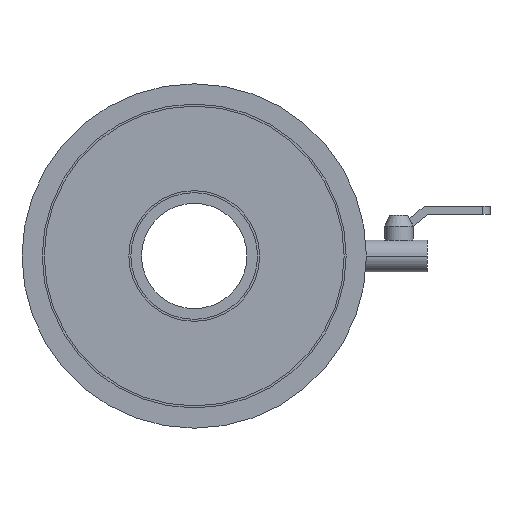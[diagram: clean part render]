
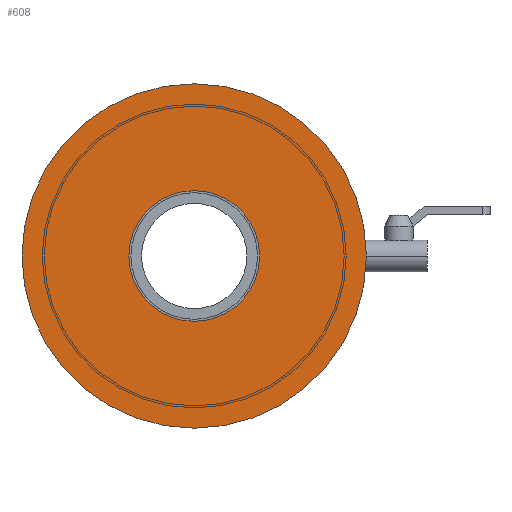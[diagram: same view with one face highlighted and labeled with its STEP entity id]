
A CAD part, left-side view. The second image highlights one B-rep face of the part: STEP entity #608.
In plain terms, the highlighted planar face has unit normal (-1, 0, 0).
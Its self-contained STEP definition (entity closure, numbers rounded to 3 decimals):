
#187=CARTESIAN_POINT('',(-253.,0.,0.));
#188=DIRECTION('',(-1.,0.,0.));
#189=DIRECTION('',(0.,1.,0.));
#190=AXIS2_PLACEMENT_3D('',#187,#188,#189);
#192=CARTESIAN_POINT('',(-253.,0.,0.));
#193=DIRECTION('',(1.,0.,0.));
#194=DIRECTION('',(0.,1.,0.));
#195=AXIS2_PLACEMENT_3D('',#192,#193,#194);
#197=CARTESIAN_POINT('',(-253.,0.,0.));
#198=DIRECTION('',(1.,0.,0.));
#199=DIRECTION('',(0.,1.,0.));
#200=AXIS2_PLACEMENT_3D('',#197,#198,#199);
#202=CARTESIAN_POINT('',(-253.,0.,0.));
#203=DIRECTION('',(1.,0.,0.));
#204=DIRECTION('',(0.,-1.,0.));
#205=AXIS2_PLACEMENT_3D('',#202,#203,#204);
#402=CARTESIAN_POINT('',(-253.,170.,0.));
#404=VERTEX_POINT('',#402);
#414=CARTESIAN_POINT('',(-253.,-170.,0.));
#416=VERTEX_POINT('',#414);
#465=CARTESIAN_POINT('',(-253.,64.5,0.));
#466=CARTESIAN_POINT('',(-253.,-64.5,0.));
#467=VERTEX_POINT('',#465);
#468=VERTEX_POINT('',#466);
#591=CARTESIAN_POINT('',(-253.,0.,0.));
#592=DIRECTION('',(1.,0.,0.));
#593=DIRECTION('',(0.,-1.,0.));
#594=AXIS2_PLACEMENT_3D('',#591,#592,#593);
#595=PLANE('',#594);
#597=ORIENTED_EDGE('',*,*,#596,.F.);
#599=ORIENTED_EDGE('',*,*,#598,.T.);
#600=EDGE_LOOP('',(#597,#599));
#601=FACE_OUTER_BOUND('',#600,.F.);
#603=ORIENTED_EDGE('',*,*,#602,.F.);
#605=ORIENTED_EDGE('',*,*,#604,.F.);
#606=EDGE_LOOP('',(#603,#605));
#607=FACE_BOUND('',#606,.F.);
#191=CIRCLE('',#190,170.);
#196=CIRCLE('',#195,170.);
#201=CIRCLE('',#200,64.5);
#206=CIRCLE('',#205,64.5);
#596=EDGE_CURVE('',#404,#416,#191,.T.);
#598=EDGE_CURVE('',#404,#416,#196,.T.);
#602=EDGE_CURVE('',#467,#468,#201,.T.);
#604=EDGE_CURVE('',#468,#467,#206,.T.);
#608=ADVANCED_FACE('',(#601,#607),#595,.F.);
